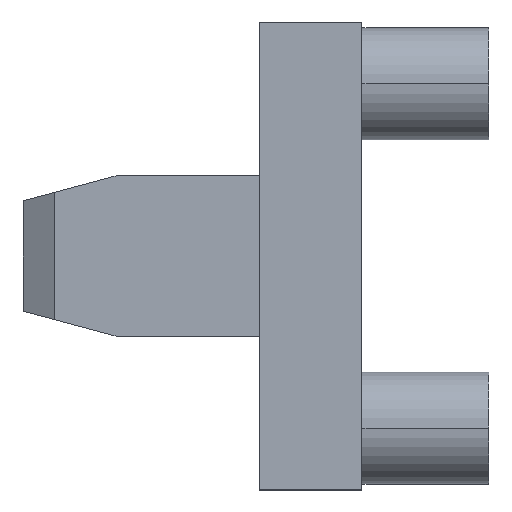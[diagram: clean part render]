
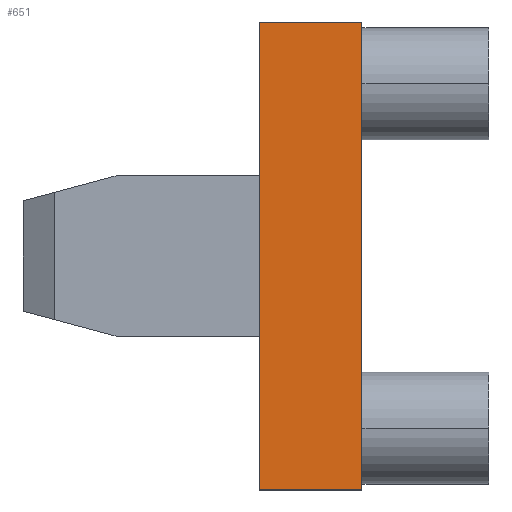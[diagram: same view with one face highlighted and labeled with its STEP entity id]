
A CAD part, left-side view. The second image highlights one B-rep face of the part: STEP entity #651.
In plain terms, the highlighted planar face has unit normal (-1, 0, 0).
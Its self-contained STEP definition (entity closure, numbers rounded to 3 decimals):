
#27 = LINE ( 'NONE', #444, #37 ) ;
#32 = LINE ( 'NONE', #430, #44 ) ;
#37 = VECTOR ( 'NONE', #440, 1000. ) ;
#44 = VECTOR ( 'NONE', #429, 1000. ) ;
#52 = EDGE_LOOP ( 'NONE', ( #291, #292, #294, #295 ) ) ;
#72 = VECTOR ( 'NONE', #623, 1000. ) ;
#74 = LINE ( 'NONE', #624, #72 ) ;
#90 = VECTOR ( 'NONE', #311, 1000. ) ;
#100 = LINE ( 'NONE', #472, #90 ) ;
#291 = ORIENTED_EDGE ( 'NONE', *, *, #719, .F. ) ;
#292 = ORIENTED_EDGE ( 'NONE', *, *, #767, .F. ) ;
#293 = FACE_OUTER_BOUND ( 'NONE', #52, .T. ) ;
#294 = ORIENTED_EDGE ( 'NONE', *, *, #747, .F. ) ;
#295 = ORIENTED_EDGE ( 'NONE', *, *, #701, .F. ) ;
#311 = DIRECTION ( 'NONE',  ( 0., -1., 0. ) ) ;
#429 = DIRECTION ( 'NONE',  ( 0., 1., 0. ) ) ;
#430 = CARTESIAN_POINT ( 'NONE',  ( -5.75, 0., -21.75 ) ) ;
#440 = DIRECTION ( 'NONE',  ( 0., 0., -1. ) ) ;
#444 = CARTESIAN_POINT ( 'NONE',  ( -5.75, 0., 21.75 ) ) ;
#460 = DIRECTION ( 'NONE',  ( 0., 0., -1. ) ) ;
#472 = CARTESIAN_POINT ( 'NONE',  ( -5.75, 0., 21.75 ) ) ;
#486 = DIRECTION ( 'NONE',  ( 1., 0., 0. ) ) ;
#529 = PLANE ( 'NONE',  #687 ) ;
#530 = CARTESIAN_POINT ( 'NONE',  ( -5.75, 9.5, -21.75 ) ) ;
#538 = CARTESIAN_POINT ( 'NONE',  ( -5.75, 0., -21.75 ) ) ;
#563 = CARTESIAN_POINT ( 'NONE',  ( -5.75, 9.5, -21.75 ) ) ;
#566 = CARTESIAN_POINT ( 'NONE',  ( -5.75, 0., 21.75 ) ) ;
#568 = CARTESIAN_POINT ( 'NONE',  ( -5.75, 9.5, 21.75 ) ) ;
#581 = VERTEX_POINT ( 'NONE', #568 ) ;
#583 = VERTEX_POINT ( 'NONE', #566 ) ;
#586 = VERTEX_POINT ( 'NONE', #563 ) ;
#604 = VERTEX_POINT ( 'NONE', #538 ) ;
#623 = DIRECTION ( 'NONE',  ( 0., 0., 1. ) ) ;
#624 = CARTESIAN_POINT ( 'NONE',  ( -5.75, 9.5, 21.75 ) ) ;
#651 = ADVANCED_FACE ( 'NONE', ( #293 ), #529, .F. ) ;
#687 = AXIS2_PLACEMENT_3D ( 'NONE', #530, #486, #460 ) ;
#701 = EDGE_CURVE ( 'NONE', #581, #583, #100, .T. ) ;
#719 = EDGE_CURVE ( 'NONE', #586, #581, #74, .T. ) ;
#747 = EDGE_CURVE ( 'NONE', #583, #604, #27, .T. ) ;
#767 = EDGE_CURVE ( 'NONE', #604, #586, #32, .T. ) ;
